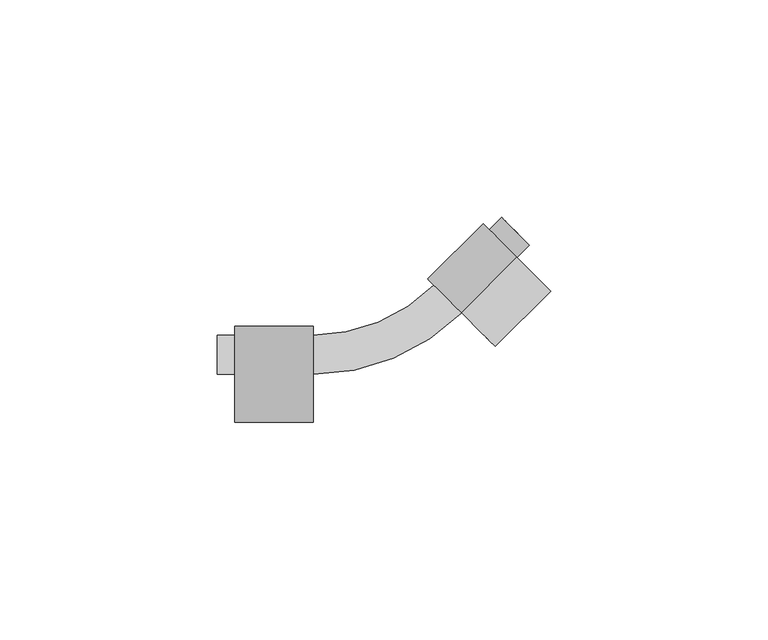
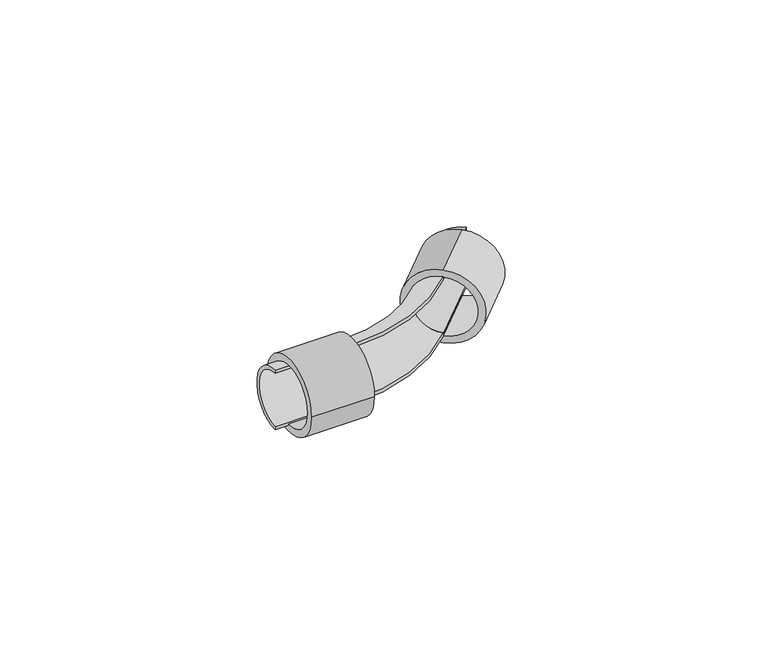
"""IFC4 building model written with IfcOpenShell, lengths in millimetres: pipe fitting geometry, REHAU_RAUTITAN_Pipe bend former sanitary : REHAU_RAUTITAN_Pipe bend former sanitary."""

from ifc_helpers import new_model, si_unit, point, frame, frame_2d, origin, origin_2d, place, context, project, spatial, polyline, circle_curve, ellipse_curve, trimmed, segment, composite_curve, outline, extrude, source, transform, mapped, element, save
from ifc_brep_helpers import plane_surface, cylinder_surface, revolved_surface, advanced_brep


def pipe_fitting_97669eb4(model_context):
    return source(origin(), model_context, "Body", "SolidModel", [
        advanced_brep(
        [(-20.0, 0.0, 9.0), (-20.0, 0.0, -9.0), (-20.0, 0.0, -8.0), (-20.0, 0.0, 8.0), (14.1421356, 14.1421356, 9.0), (14.1421356, 14.1421356, 8.0), (14.1421356, 14.1421356, -8.0), (14.1421356, 14.1421356, -9.0)],
        [
            (0, 1, circle_curve(frame((-20.0, 0.0, 0.0), z_axis=(-1.0, 0.0, 0.0), x_axis=(0.0, 1.0, 0.0)), 9.0)),
            (1, 2),
            (2, 3, circle_curve(frame((-20.0, 0.0, 0.0), z_axis=(1.0, 0.0, 0.0), x_axis=(0.0, 1.0, 0.0)), 8.0)),
            (3, 0),
            (4, 5),
            (5, 6, circle_curve(frame((14.1421356, 14.1421356, 0.0), z_axis=(-0.7071067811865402, -0.7071067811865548, 0.0), x_axis=(-0.7071067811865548, 0.7071067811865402, 0.0)), 8.0)),
            (6, 7),
            (7, 4, circle_curve(frame((14.1421356, 14.1421356, 0.0), z_axis=(0.7071067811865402, 0.7071067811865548, 0.0), x_axis=(-0.7071067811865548, 0.7071067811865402, 0.0)), 9.0)),
            (4, 0, circle_curve(frame((-20.0, 48.2842712, 9.0), z_axis=(0.0, 0.0, -1.0), x_axis=(0.0, -1.0, 0.0)), 48.2842712)),
            (3, 5, circle_curve(frame((-20.0, 48.2842712, 8.0), z_axis=(0.0, 0.0, 1.0), x_axis=(0.0, -1.0, 0.0)), 48.2842712)),
            (6, 2, circle_curve(frame((-20.0, 48.2842712, -8.0), z_axis=(0.0, 0.0, -1.0), x_axis=(0.0, -1.0, 0.0)), 48.2842712)),
            (1, 7, circle_curve(frame((-20.0, 48.2842712, -9.0), z_axis=(0.0, 0.0, 1.0), x_axis=(0.0, -1.0, 0.0)), 48.2842712)),
        ],
        [
            plane_surface(frame((-20.0, 0.0, 0.0), z_axis=(-1.0, 0.0, 0.0), x_axis=(0.0, 0.0, 1.0))),
            plane_surface(frame((14.1421356, 14.1421356, 0.0), z_axis=(0.7071067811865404, 0.7071067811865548, 0.0), x_axis=(0.0, 0.0, 1.0))),
            cylinder_surface(frame((-20.0, 48.2842712, 0.0), z_axis=(0.0, 0.0, 1.0), x_axis=(0.0, -1.0, 0.0)), 48.2842712),
            revolved_surface(trimmed(ellipse_curve(frame((-20.0, 0.0, 0.0), z_axis=(-1.0, 0.0, 0.0), x_axis=(0.0, 1.0, 0.0)), 9.0, 9.0), [point((-20.0, 0.0, 9.0))], [point((-20.0, 0.0, -9.0))], True, "CARTESIAN"), (-20.0, 48.2842712, 0.0), (0.0, 0.0, 1.0)),
            revolved_surface(trimmed(ellipse_curve(frame((-20.0, 0.0, 0.0), z_axis=(1.0, 0.0, 0.0), x_axis=(0.0, 1.0, 0.0)), 8.0, 8.0), [point((-20.0, 0.0, -8.0))], [point((-20.0, 0.0, 8.0))], True, "CARTESIAN"), (-20.0, 48.2842712, 0.0), (0.0, 0.0, 1.0)),
        ],
        [
            (0, [[1, 2, 3, 4]]),
            (1, [[5, 6, 7, 8]]),
            (2, [[9, -4, 10, -5]]),
            (2, [[11, -2, 12, -7]]),
            (3, [[-12, -1, -9, -8]]),
            (4, [[-10, -3, -11, -6]]),
        ],
    ),
        extrude(outline(composite_curve([segment(trimmed(circle_curve(origin_2d(), 11.0), [point((11.0, 0.0))], [point((-11.0, 0.0))], False, "CARTESIAN"), True, "CONTINUOUS"), segment(trimmed(circle_curve(origin_2d(), 11.0), [point((-11.0, 0.0))], [point((11.0, 0.0))], False, "CARTESIAN"), True, "CONTINUOUS")], self_intersect=False), holes=[composite_curve([segment(trimmed(circle_curve(origin_2d(), 8.85), [point((8.85, 0.0))], [point((-8.85, 0.0))], True, "CARTESIAN"), True, "CONTINUOUS"), segment(trimmed(circle_curve(origin_2d(), 8.85), [point((-8.85, 0.0))], [point((8.85, 0.0))], True, "CARTESIAN"), True, "CONTINUOUS")], self_intersect=False)]), frame((-38.0, 0.0, 0.0), z_axis=(1.0, 0.0, 0.0), x_axis=(0.0, 1.0, 0.0)), (0.0, 0.0, 1.0), 18.0),
        extrude(outline(composite_curve([segment(trimmed(circle_curve(frame_2d((0.0, -11.0)), 11.0), [point((0.0, -22.0))], [point((0.0, 0.0))], False, "CARTESIAN"), True, "CONTINUOUS"), segment(trimmed(circle_curve(frame_2d((0.0, -11.0)), 11.0), [point((0.0, 0.0))], [point((0.0, -22.0))], False, "CARTESIAN"), True, "CONTINUOUS")], self_intersect=False), holes=[composite_curve([segment(trimmed(circle_curve(frame_2d((0.0, -11.0)), 8.85), [point((0.0, -19.85))], [point((0.0, -2.15))], True, "CARTESIAN"), True, "CONTINUOUS"), segment(trimmed(circle_curve(frame_2d((0.0, -11.0)), 8.85), [point((0.0, -2.15))], [point((0.0, -19.85))], True, "CARTESIAN"), True, "CONTINUOUS")], self_intersect=False)]), frame((14.1421356, 14.1421356, 11.0), z_axis=(0.7071067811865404, 0.7071067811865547, 0.0), x_axis=(-0.7071067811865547, 0.7071067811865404, 0.0)), (0.0, 0.0, 1.0), 18.0),
        extrude(outline(composite_curve([segment(polyline([(0.0, 8.0), (0.0, 9.0)]), True, "CONTINUOUS"), segment(trimmed(circle_curve(origin_2d(), 9.0), [point((0.0, 9.0))], [point((0.0, -9.0))], False, "CARTESIAN"), True, "CONTINUOUS"), segment(polyline([(0.0, -9.0), (0.0, -8.0)]), True, "CONTINUOUS"), segment(trimmed(circle_curve(origin_2d(), 8.0), [point((0.0, -8.0))], [point((0.0, 8.0))], True, "CARTESIAN"), True, "CONTINUOUS")], self_intersect=False)), frame((-42.0, 0.0, 0.0), z_axis=(1.0, 0.0, 0.0), x_axis=(0.0, 1.0, 0.0)), (0.0, 0.0, 1.0), 22.0),
        extrude(outline(composite_curve([segment(polyline([(0.0, 0.0), (0.0, -1.0)]), True, "CONTINUOUS"), segment(trimmed(circle_curve(frame_2d((0.0, 8.0)), 9.0), [point((0.0, -1.0))], [point((0.0, 17.0))], False, "CARTESIAN"), True, "CONTINUOUS"), segment(polyline([(0.0, 17.0), (0.0, 16.0)]), True, "CONTINUOUS"), segment(trimmed(circle_curve(frame_2d((0.0, 8.0)), 8.0), [point((0.0, 16.0))], [point((0.0, 0.0))], True, "CARTESIAN"), True, "CONTINUOUS")], self_intersect=False)), frame((14.1421356, 14.1421356, 8.0015807), z_axis=(0.7071067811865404, 0.7071067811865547, 0.0), x_axis=(0.7071067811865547, -0.7071067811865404, 0.0)), (0.0, 0.0, 1.0), 22.0),
    ])


if __name__ == "__main__":
    model = new_model("IFC4")
    model_context = context("Model", 3, world=origin())
    ifc_project = project(units=[si_unit("LENGTHUNIT", "METRE", prefix="MILLI")], contexts=[model_context])
    site = spatial("IfcSite", under=ifc_project)
    building = spatial("IfcBuilding", under=site)
    placement = place(None, origin())
    pipe_fitting_shape = pipe_fitting_97669eb4(model_context)
    element("IfcPipeFitting", 1, ObjectType="REHAU_RAUTITAN_Pipe bend former sanitary : REHAU_RAUTITAN_Pipe bend former sanitary", at=placement, inside=building, context=model_context, shape_type="MappedRepresentation", body=[
        mapped(pipe_fitting_shape, transform((0.0, 0.0, 0.0), x_axis=(1.0, 0.0, 0.0), y_axis=(0.0, 1.0, 0.0), z_axis=(0.0, 0.0, 1.0))),
    ])
    save(model, "model.ifc")
